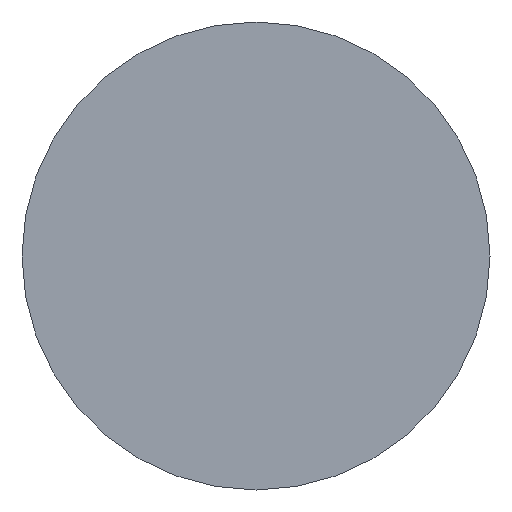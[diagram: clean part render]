
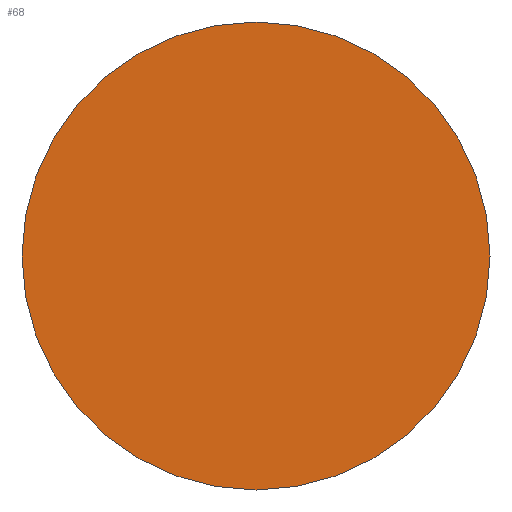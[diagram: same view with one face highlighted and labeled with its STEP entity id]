
A CAD part, front view. The second image highlights one B-rep face of the part: STEP entity #68.
In plain terms, the highlighted planar face has unit normal (0, -1, 0).
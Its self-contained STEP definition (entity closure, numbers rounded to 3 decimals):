
#64 = EDGE_CURVE( '', #92, #128, #153, .T. );
#68 = ADVANCED_FACE( '', ( #158 ), #159, .T. );
#92 = VERTEX_POINT( '', #188 );
#124 = EDGE_CURVE( '', #128, #92, #222, .T. );
#128 = VERTEX_POINT( '', #226 );
#153 = CIRCLE( '', #244, 15. );
#158 = FACE_OUTER_BOUND( '', #249, .T. );
#159 = PLANE( '', #250 );
#188 = CARTESIAN_POINT( '', ( 0., -26., -15. ) );
#222 = CIRCLE( '', #328, 15. );
#226 = CARTESIAN_POINT( '', ( 0., -26., 15. ) );
#244 = AXIS2_PLACEMENT_3D( '', #348, #349, #350 );
#249 = EDGE_LOOP( '', ( #360, #361 ) );
#250 = AXIS2_PLACEMENT_3D( '', #362, #363, #364 );
#328 = AXIS2_PLACEMENT_3D( '', #437, #438, #439 );
#348 = CARTESIAN_POINT( '', ( 0., -26., 0. ) );
#349 = DIRECTION( '', ( 0., -1., 0. ) );
#350 = DIRECTION( '', ( 0., 0., 1. ) );
#360 = ORIENTED_EDGE( '', *, *, #124, .T. );
#361 = ORIENTED_EDGE( '', *, *, #64, .T. );
#362 = CARTESIAN_POINT( '', ( 0., -26., 7.5 ) );
#363 = DIRECTION( '', ( 0., -1., 0. ) );
#364 = DIRECTION( '', ( 0., 0., 1. ) );
#437 = CARTESIAN_POINT( '', ( 0., -26., 0. ) );
#438 = DIRECTION( '', ( 0., -1., 0. ) );
#439 = DIRECTION( '', ( 0., 0., 1. ) );
